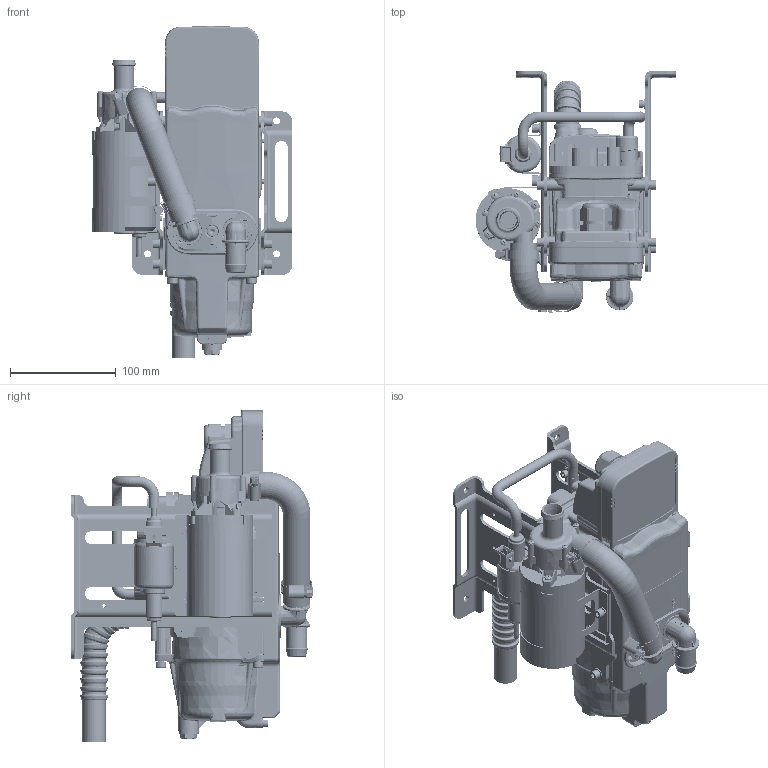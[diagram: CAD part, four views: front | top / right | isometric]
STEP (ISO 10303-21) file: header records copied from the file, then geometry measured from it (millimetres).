
FILE_DESCRIPTION (( 'STEP AP214' ), '1' );
FILE_NAME ('HFW50.STEP', '2024-01-30T07:18:04', ( '' ), ( '' ), 'SwSTEP 2.0', 'SolidWorks 2022', '' );
FILE_SCHEMA (( 'AUTOMOTIVE_DESIGN' ));
Length unit declared in the file: millimetre
Products named in the file (1): HFW50
Bounding box: 190.35 x 229.02 x 314.66 mm (x, y, z)
Volume: 2821824.3 mm3; surface area: 521373.3 mm2
Topology: 9 solids, 48 shells, 8958 faces, 23194 edges, 14342 vertices
Faces by surface type: plane 3196, cylinder 2237, bspline 2070, torus 642, cone 501, sphere 312
Entity records: 448450 total; most frequent: CARTESIAN_POINT 254918, ORIENTED_EDGE 46074, DIRECTION 30668, EDGE_CURVE 23037, VERTEX_POINT 14336, AXIS2_PLACEMENT_3D 11655, B_SPLINE_CURVE_WITH_KNOTS 9578, EDGE_LOOP 9417
